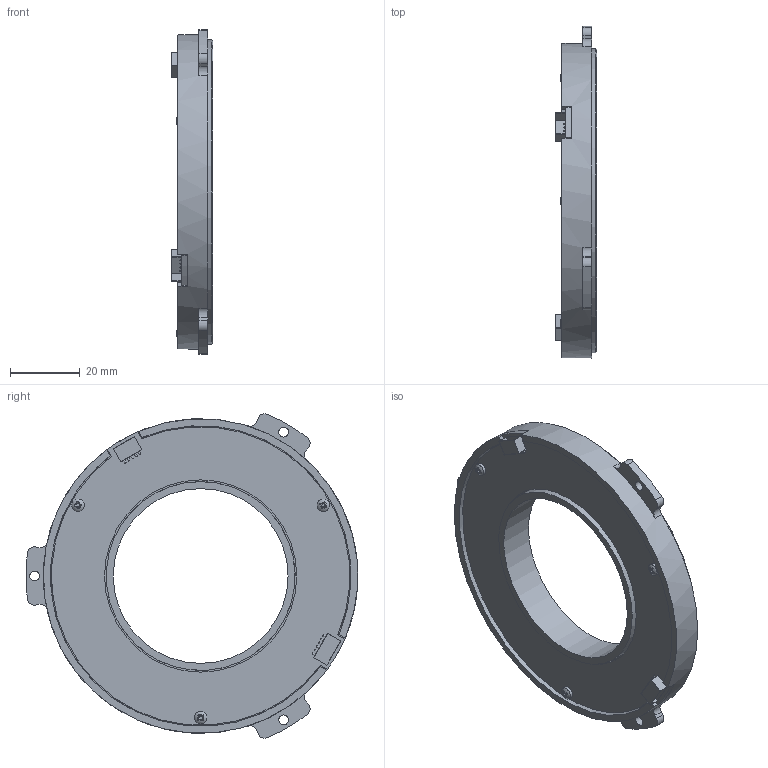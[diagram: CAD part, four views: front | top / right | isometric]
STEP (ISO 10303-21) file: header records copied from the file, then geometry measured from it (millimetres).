
FILE_DESCRIPTION(('STEP AP214'), '1');
FILE_NAME('蟲鰍-90', '2025-02-21T21:56:54', (''), (''), 'C3D Converter', 'C3D Toolkit', '');
FILE_SCHEMA(('AUTOMOTIVE_DESIGN { 1 0 10303 214 3 1 1}'));
Length unit declared in the file: millimetre
Products named in the file (10): ВОДП-90; Деталь1; Деталь2; Деталь3; Плата; PCB; Разъем2; Разъем1; Сенсор
Assembly tree (11 placements, depth 3):
  ВОДП-90
    (unnamed)  x3
    Деталь1
    Деталь2
    Деталь3
    Плата
      PCB
      Разъем2
      Разъем1
      Сенсор
Bounding box: 11.9 x 94.95 x 92.75 mm (x, y, z)
Volume: 23793.3 mm3; surface area: 28746.2 mm2
Topology: 10 solids, 10 shells, 362 faces, 913 edges, 603 vertices
Faces by surface type: plane 248, cylinder 75, bspline 32, cone 4, sphere 3
Full cylindrical faces by diameter (mm): 0.5 x12, 1.6 x3, 1.7 x3, 2 x3, 2.2 x3, 2.8 x3, 3.5 x3, 50 x1, 54 x1, 55 x1, 58 x2, 62 x1, 72 x1, 75 x1, 76.7 x1, 77.5 x1, 80 x1, 86 x1, 87 x1, 90 x1
Entity records: 10630 total; most frequent: CARTESIAN_POINT 1893, ORIENTED_EDGE 1238, DIRECTION 1155, EDGE_CURVE 619, VERTEX_POINT 440, AXIS2_PLACEMENT_3D 434, EDGE_LOOP 357, FACE_BOUND 313
